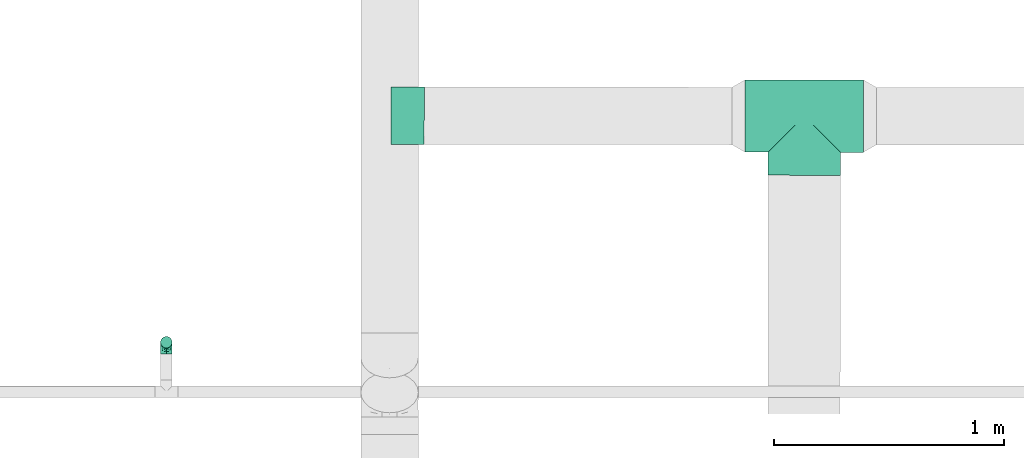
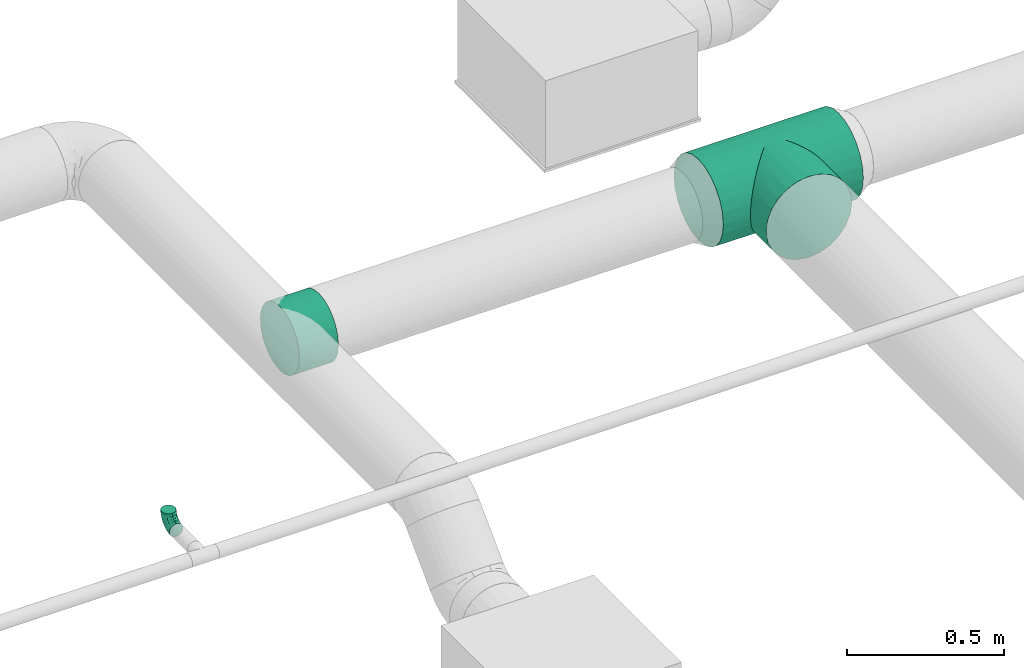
# One storey, part 34 of 63: 3 flow fittings.
"""IFC2X3 building model written with IfcOpenShell, lengths in millimetres."""

from ifc_helpers import new_model, entity, si_unit, converted_unit, derived_unit, direction, frame, origin_with_axes, place, context, subcontext, project, spatial, open_shell, surface_model, source, transform, mapped, type_object, element, save


model = new_model("IFC2X3")

# Units and contexts
model_context = context("Model", 3, precision=0.01, world=frame((0.0, 4.29681676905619e-09, 0.0)), true_north=direction((4.01073788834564e-13, 1.0)))
plan_context = context("Plan", 3, precision=0.01, world=frame((0.0, 4.29681676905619e-09, 0.0)), true_north=direction((4.01073788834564e-13, 1.0)))
body_context = subcontext(model_context, "Body", "Model", "MODEL_VIEW")
ifc_project = project(units=[converted_unit("PLANEANGLEUNIT", "DEGREE", entity("IfcPositiveLengthMeasure", 0.0174532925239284), si_unit("PLANEANGLEUNIT", "RADIAN"), dimensions=[0, 0, 0, 0, 0, 0, 0]), si_unit("AREAUNIT", "SQUARE_METRE"), si_unit("LENGTHUNIT", "METRE", prefix="MILLI"), si_unit("MASSUNIT", "GRAM", prefix="KILO"), si_unit("POWERUNIT", "WATT"), si_unit("PRESSUREUNIT", "PASCAL"), si_unit("FORCEUNIT", "NEWTON", prefix="KILO"), si_unit("ELECTRICVOLTAGEUNIT", "VOLT"), si_unit("ELECTRICCURRENTUNIT", "AMPERE"), si_unit("THERMODYNAMICTEMPERATUREUNIT", "DEGREE_CELSIUS"), si_unit("TIMEUNIT", "SECOND"), si_unit("VOLUMEUNIT", "CUBIC_METRE"), derived_unit("LINEARVELOCITYUNIT", [(si_unit("LENGTHUNIT", "METRE"), 1), (si_unit("TIMEUNIT", "SECOND"), -1)]), derived_unit("VOLUMETRICFLOWRATEUNIT", [(si_unit("VOLUMEUNIT", "CUBIC_METRE"), 1), (si_unit("TIMEUNIT", "SECOND"), -1)]), derived_unit("THERMALTRANSMITTANCEUNIT", [(si_unit("POWERUNIT", "WATT"), 1), (si_unit("THERMODYNAMICTEMPERATUREUNIT", "KELVIN"), -1), (si_unit("AREAUNIT", "SQUARE_METRE"), -1)]), derived_unit("SOUNDPRESSUREUNIT", [(si_unit("PRESSUREUNIT", "PASCAL"), 1)])], contexts=[model_context, plan_context])

# Site, building, storey
site_placement = place(None, frame((0.0, -4.29681676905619e-09, 0.0), z_axis=(0.0, 0.0, 1.0), x_axis=(1.0, 0.0, 0.0)))
site = spatial("IfcSite", under=ifc_project, at=site_placement, CompositionType="ELEMENT")
building_placement = place(site_placement, frame((0.0, 4.29681676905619e-09, 0.0), z_axis=(0.0, 0.0, 1.0), x_axis=(1.0, 0.0, 0.0)))
building = spatial("IfcBuilding", under=site, at=building_placement, Name="mc-building", CompositionType="ELEMENT")
storey_placement = place(building_placement, frame((0.0, 0.0, 210900.0), z_axis=(0.0, 0.0, 1.0), x_axis=(1.0, 0.0, 0.0)))
storey = spatial("IfcBuildingStorey", under=building, at=storey_placement, Name="Nivå F", CompositionType="ELEMENT", Elevation=210900.0)

# Flow fittings
duct_fitting_type_1 = type_object("IfcDuctFittingType", Name="magicirc_tee_centric_90_001", PredefinedType="JUNCTION")
shared_shape_1 = source(origin_with_axes(), body_context, "Body", "SurfaceModel", [
    surface_model("IfcShellBasedSurfaceModel", [(-257.5, 40.764, -152.13332), (-257.5, 0.0, -157.5), (-257.5, 152.13332, -40.764), (-257.5, 78.75, -136.39901), (-257.5, 136.39901, -78.75), (-257.5, 111.36932, -111.36932), (-257.5, -157.5, 0.0), (-257.5, -78.75, -136.39901), (-257.5, -111.36932, -111.36932), (-257.5, -40.764, -152.13332), (-257.5, -152.13332, -40.764), (-257.5, -136.39901, -78.75), (-257.5, -111.36932, 111.36932), (-257.5, 136.39901, 78.75), (-257.5, 152.13332, 40.764), (-257.5, 157.5, 0.0), (-257.5, 40.764, 152.13332), (-257.5, 78.75, 136.39901), (-257.5, 111.36932, 111.36932), (-257.5, 0.0, 157.5), (-257.5, -152.13332, 40.764), (-257.5, -136.39901, 78.75), (-257.5, -78.75, 136.39901), (-257.5, -40.764, 152.13332), (257.5, 152.13332, -40.764), (257.5, 0.0, -157.5), (257.5, 40.764, -152.13332), (257.5, 78.75, -136.39901), (257.5, 111.36932, -111.36932), (257.5, 136.39901, -78.75), (257.5, -40.764, -152.13332), (257.5, -111.36932, -111.36932), (257.5, -78.75, -136.39901), (257.5, -152.13332, -40.764), (257.5, -136.39901, -78.75), (257.5, -157.5, 0.0), (257.5, 136.39901, 78.75), (257.5, 157.5, 0.0), (257.5, 152.13332, 40.764), (257.5, -111.36932, 111.36932), (257.5, 78.75, 136.39901), (257.5, 40.764, 152.13332), (257.5, 111.36932, 111.36932), (257.5, 0.0, 157.5), (257.5, -136.39901, 78.75), (257.5, -152.13332, 40.764), (257.5, -40.764, 152.13332), (257.5, -78.75, 136.39901), (156.38291, -156.38291, 18.72524), (157.5, -157.5, 0.0), (257.5, -154.81666, 20.382), (153.10726, -153.10726, 36.93798), (140.95819, -140.95819, 70.26406), (147.87507, -147.87507, 54.21453), (257.5, -144.26616, 59.757), (257.5, -123.88416, 95.05966), (132.64215, -132.64215, 84.92533), (123.18918, -123.18918, 98.13601), (112.82257, -112.82257, 109.89684), (90.04708, -90.04708, 129.21987), (101.72534, -101.72534, 120.24227), (257.5, -95.05966, 123.88416), (-147.87507, -147.87507, 54.21453), (-257.5, -144.26616, 59.757), (-153.10726, -153.10726, 36.93798), (-157.5, -157.5, 0.0), (-156.38291, -156.38291, 18.72524), (-257.5, -154.81666, 20.382), (-140.95819, -140.95819, 70.26406), (-123.18918, -123.18918, 98.13601), (-112.82257, -112.82257, 109.89684), (-90.04708, -90.04708, 129.21987), (-257.5, -95.05966, 123.88416), (-101.72534, -101.72534, 120.24227), (-257.5, -123.88416, 95.05966), (-132.64215, -132.64215, 84.92533), (-77.91101, -77.91101, 136.87996), (77.91101, -77.91101, 136.87996), (65.41408, -65.41408, 143.27333), (52.63766, -52.63766, 148.44368), (26.51413, -26.51413, 155.25222), (39.65101, -39.65101, 152.42718), (0.0, 0.0, 157.5), (13.28058, -13.28058, 156.93908), (-26.51413, -26.51413, 155.25222), (-39.65101, -39.65101, 152.42718), (-65.41408, -65.41408, 143.27333), (-52.63766, -52.63766, 148.44368), (-13.28058, -13.28058, 156.93908), (0.0, 0.0, -157.5), (65.41408, -65.41408, -143.27333), (77.91101, -77.91101, -136.87996), (52.63766, -52.63766, -148.44368), (90.04708, -90.04708, -129.21987), (257.5, -95.05966, -123.88416), (101.72534, -101.72534, -120.24227), (13.28058, -13.28058, -156.93908), (26.51413, -26.51413, -155.25222), (140.95819, -140.95819, -70.26406), (257.5, -144.26616, -59.757), (147.87507, -147.87507, -54.21453), (39.65101, -39.65101, -152.42718), (-132.64215, -132.64215, -84.92533), (-257.5, -123.88416, -95.05966), (-123.18918, -123.18918, -98.13601), (-13.28058, -13.28058, -156.93908), (-26.51413, -26.51413, -155.25222), (-101.72534, -101.72534, -120.24227), (-257.5, -95.05966, -123.88416), (-39.65101, -39.65101, -152.42718), (-52.63766, -52.63766, -148.44368), (123.18918, -123.18918, -98.13601), (257.5, -123.88416, -95.05966), (-147.87507, -147.87507, -54.21453), (-257.5, -144.26616, -59.757), (-65.41408, -65.41408, -143.27333), (153.10726, -153.10726, -36.93798), (257.5, -154.81666, -20.382), (156.38291, -156.38291, -18.72524), (-77.91101, -77.91101, -136.87996), (-156.38291, -156.38291, -18.72524), (-257.5, -154.81666, -20.382), (132.64215, -132.64215, -84.92533), (112.82257, -112.82257, -109.89684), (-112.82257, -112.82257, -109.89684), (-90.04708, -90.04708, -129.21987), (-140.95819, -140.95819, -70.26406), (-153.10726, -153.10726, -36.93798), (152.13332, -257.5, -40.764), (0.0, -257.5, -157.5), (40.764, -257.5, -152.13332), (78.75, -257.5, -136.39901), (111.36932, -257.5, -111.36932), (136.39901, -257.5, -78.75), (-157.5, -257.5, 0.0), (-40.764, -257.5, -152.13332), (-111.36932, -257.5, -111.36932), (-78.75, -257.5, -136.39901), (-152.13332, -257.5, -40.764), (-136.39901, -257.5, -78.75), (157.5, -257.5, 0.0), (152.13332, -257.5, 40.764), (136.39901, -257.5, 78.75), (-40.764, -257.5, 152.13332), (78.75, -257.5, 136.39901), (40.764, -257.5, 152.13332), (111.36932, -257.5, 111.36932), (0.0, -257.5, 157.5), (-136.39901, -257.5, 78.75), (-152.13332, -257.5, 40.764), (-111.36932, -257.5, 111.36932), (-78.75, -257.5, 136.39901)], [open_shell([[[0, 1, 2]], [[3, 0, 2]], [[2, 4, 5]], [[3, 2, 5]], [[6, 2, 1]], [[7, 8, 9]], [[10, 9, 8]], [[11, 10, 8]], [[6, 9, 10]], [[6, 1, 9]], [[6, 12, 2]], [[13, 14, 15]], [[12, 13, 2]], [[13, 16, 17]], [[18, 13, 17]], [[16, 13, 19]], [[20, 21, 6]], [[6, 21, 12]], [[22, 23, 12]], [[23, 13, 12]], [[13, 23, 19]], [[13, 15, 2]], [[24, 25, 26]], [[24, 26, 27]], [[28, 29, 24]], [[28, 24, 27]], [[25, 24, 30]], [[30, 31, 32]], [[31, 30, 33]], [[31, 33, 34]], [[33, 30, 35]], [[30, 24, 35]], [[24, 36, 35]], [[37, 38, 36]], [[36, 39, 35]], [[40, 41, 36]], [[40, 36, 42]], [[43, 36, 41]], [[35, 44, 45]], [[39, 44, 35]], [[39, 46, 47]], [[39, 36, 46]], [[43, 46, 36]], [[36, 24, 37]], [[48, 49, 35]], [[50, 45, 51]], [[48, 50, 51]], [[52, 53, 54]], [[51, 45, 53]], [[54, 44, 52]], [[44, 55, 56]], [[57, 55, 39]], [[44, 56, 52]], [[58, 57, 39]], [[59, 60, 61]], [[58, 39, 60]], [[61, 47, 59]], [[20, 62, 63]], [[64, 62, 20]], [[6, 65, 66]], [[66, 67, 6]], [[67, 64, 20]], [[68, 21, 63]], [[69, 70, 12]], [[71, 22, 72]], [[70, 73, 12]], [[69, 74, 75]], [[75, 21, 68]], [[75, 74, 21]], [[73, 72, 12]], [[22, 71, 76]], [[77, 47, 78]], [[78, 47, 46]], [[60, 39, 61]], [[79, 78, 46]], [[53, 45, 54]], [[80, 81, 46]], [[79, 46, 81]], [[46, 43, 80]], [[64, 67, 66]], [[42, 18, 40]], [[36, 13, 42]], [[38, 14, 36]], [[82, 83, 43]], [[43, 83, 80]], [[82, 43, 41]], [[40, 17, 41]], [[38, 37, 15]], [[69, 12, 74]], [[48, 35, 50]], [[56, 55, 57]], [[23, 84, 19]], [[85, 84, 23]], [[86, 23, 22]], [[87, 23, 86]], [[23, 87, 85]], [[86, 22, 76]], [[84, 88, 19]], [[68, 63, 62]], [[82, 19, 88]], [[19, 82, 16]], [[16, 82, 41]], [[17, 16, 41]], [[40, 18, 17]], [[42, 13, 18]], [[14, 13, 36]], [[38, 15, 14]], [[71, 72, 73]], [[77, 59, 47]], [[28, 27, 3]], [[27, 26, 0]], [[2, 37, 24]], [[2, 24, 29]], [[29, 28, 5]], [[89, 26, 25]], [[90, 32, 91]], [[32, 90, 30]], [[30, 90, 92]], [[93, 94, 95]], [[96, 25, 97]], [[98, 99, 100]], [[92, 101, 30]], [[97, 30, 101]], [[102, 103, 104]], [[97, 25, 30]], [[25, 96, 89]], [[37, 2, 15]], [[26, 89, 0]], [[29, 4, 2]], [[29, 5, 4]], [[28, 3, 5]], [[0, 3, 27]], [[89, 1, 0]], [[105, 106, 1]], [[107, 8, 108]], [[109, 110, 9]], [[111, 31, 112]], [[113, 10, 114]], [[106, 109, 9]], [[1, 106, 9]], [[9, 115, 7]], [[116, 117, 118]], [[110, 115, 9]], [[7, 115, 119]], [[120, 6, 121]], [[105, 1, 89]], [[95, 94, 31]], [[122, 112, 34]], [[111, 112, 122]], [[93, 32, 94]], [[111, 123, 31]], [[95, 31, 123]], [[100, 99, 33]], [[117, 35, 118]], [[49, 118, 35]], [[98, 34, 99]], [[116, 33, 117]], [[100, 33, 116]], [[34, 98, 122]], [[107, 124, 8]], [[107, 108, 125]], [[125, 108, 7]], [[8, 104, 103]], [[124, 104, 8]], [[103, 102, 11]], [[7, 119, 125]], [[113, 114, 126]], [[120, 121, 127]], [[113, 127, 10]], [[126, 114, 11]], [[10, 127, 121]], [[65, 6, 120]], [[126, 11, 102]], [[91, 32, 93]], [[128, 129, 130]], [[128, 130, 131]], [[132, 133, 128]], [[132, 128, 131]], [[129, 128, 134]], [[135, 136, 137]], [[136, 135, 138]], [[136, 138, 139]], [[138, 135, 134]], [[135, 129, 134]], [[128, 140, 134]], [[140, 141, 142]], [[143, 140, 142]], [[144, 145, 142]], [[144, 142, 146]], [[147, 142, 145]], [[134, 148, 149]], [[150, 148, 134]], [[150, 143, 151]], [[150, 140, 143]], [[147, 143, 142]], [[150, 134, 140]], [[134, 149, 66]], [[66, 65, 134]], [[64, 66, 149]], [[149, 62, 64]], [[150, 69, 148]], [[151, 73, 150]], [[62, 148, 68]], [[148, 62, 149]], [[75, 68, 148]], [[151, 143, 86]], [[69, 75, 148]], [[70, 69, 150]], [[71, 73, 151]], [[76, 71, 151]], [[70, 150, 73]], [[87, 86, 143]], [[85, 87, 143]], [[147, 88, 84]], [[147, 82, 88]], [[85, 143, 84]], [[76, 151, 86]], [[147, 84, 143]], [[146, 60, 144]], [[145, 80, 147]], [[145, 144, 78]], [[57, 146, 142]], [[48, 141, 140]], [[48, 140, 49]], [[51, 53, 141]], [[48, 51, 141]], [[141, 53, 142]], [[52, 142, 53]], [[78, 79, 145]], [[77, 78, 144]], [[80, 83, 147]], [[81, 80, 145]], [[79, 81, 145]], [[56, 57, 142]], [[52, 56, 142]], [[60, 59, 144]], [[58, 60, 146]], [[57, 58, 146]], [[77, 144, 59]], [[147, 83, 82]], [[140, 128, 118]], [[118, 49, 140]], [[116, 118, 128]], [[128, 100, 116]], [[132, 111, 133]], [[131, 95, 132]], [[100, 133, 98]], [[133, 100, 128]], [[122, 98, 133]], [[131, 130, 90]], [[111, 122, 133]], [[123, 111, 132]], [[93, 95, 131]], [[91, 93, 131]], [[123, 132, 95]], [[92, 90, 130]], [[101, 92, 130]], [[129, 96, 97]], [[129, 89, 96]], [[101, 130, 97]], [[91, 131, 90]], [[129, 97, 130]], [[136, 107, 137]], [[135, 106, 129]], [[135, 137, 115]], [[104, 136, 139]], [[120, 138, 134]], [[120, 134, 65]], [[127, 113, 138]], [[120, 127, 138]], [[138, 113, 139]], [[126, 139, 113]], [[115, 110, 135]], [[119, 115, 137]], [[106, 105, 129]], [[109, 106, 135]], [[110, 109, 135]], [[102, 104, 139]], [[126, 102, 139]], [[107, 125, 137]], [[124, 107, 136]], [[104, 124, 136]], [[119, 137, 125]], [[129, 105, 89]]])]),
])
flow_fitting_1_placement = place(storey_placement, frame((525104.70499, 459789.05372, 4200.0), z_axis=(0.0, 0.0, 1.0), x_axis=(0.999999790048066, -0.000647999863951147, 0.0)))
element("IfcFlowFitting", 1, at=flow_fitting_1_placement, inside=storey, type_object=duct_fitting_type_1, Name="magicirc_tee_centric_90_001", context=body_context, shape_type="MappedRepresentation", body=[
    mapped(shared_shape_1, transform((0.0, 0.0, 0.0), scale=1.0)),
])
duct_fitting_type_2 = type_object("IfcDuctFittingType", Name="magicirc_tapoutlet_001", PredefinedType="CONNECTOR")
shared_shape_2 = source(origin_with_axes(), body_context, "Body", "SurfaceModel", [
    surface_model("IfcShellBasedSurfaceModel", [(-118.904, 88.38835, -88.38835), (-118.904, 120.74073, 32.35238), (-118.904, 108.25318, -62.5), (-118.904, -88.38835, -88.38835), (-118.904, -125.0, 0.0), (-118.904, -62.5, -108.25318), (-118.904, -120.74073, -32.35238), (-118.904, -108.25318, -62.5), (0.0, 125.0, 0.0), (0.0, 120.74073, -32.35238), (-118.904, 125.0, 0.0), (0.0, -120.74073, -32.35238), (0.0, -125.0, 0.0), (-118.904, -32.35238, -120.74073), (-118.904, 0.0, -125.0), (-118.904, 62.5, -108.25318), (-118.904, 32.35238, -120.74073), (-118.904, 120.74073, -32.35238), (-118.904, -120.74073, 32.35238), (-118.904, -108.25318, 62.5), (-118.904, -62.5, 108.25318), (-118.904, -32.35238, 120.74073), (-118.904, -88.38835, 88.38835), (-118.904, 62.5, 108.25318), (-118.904, 108.25318, 62.5), (-118.904, 88.38835, 88.38835), (-118.904, 32.35238, 120.74073), (-118.904, 0.0, 125.0), (0.0, -32.35238, 120.74073), (0.0, 0.0, 125.0), (0.0, -62.5, 108.25318), (0.0, -88.38835, 88.38835), (0.0, -120.74073, 32.35238), (0.0, -108.25318, 62.5), (0.0, -108.25318, -62.5), (0.0, -88.38835, -88.38835), (0.0, -32.35238, -120.74073), (0.0, -62.5, -108.25318), (0.0, 0.0, -125.0), (0.0, 32.35238, -120.74073), (0.0, 62.5, -108.25318), (0.0, 88.38835, -88.38835), (0.0, 108.25318, -62.5), (0.0, 120.74073, 32.35238), (0.0, 108.25318, 62.5), (0.0, 88.38835, 88.38835), (0.0, 32.35238, 120.74073), (0.0, 62.5, 108.25318), (25.0, -88.38835, -88.38835), (25.0, -120.74073, 32.35238), (25.0, -108.25318, -62.5), (25.0, 32.35238, -120.74073), (25.0, 0.0, -125.0), (25.0, 62.5, -108.25318), (25.0, -32.35238, -120.74073), (25.0, -62.5, -108.25318), (25.0, -125.0, 0.0), (25.0, -120.74073, -32.35238), (25.0, 88.38835, -88.38835), (25.0, 108.25318, -62.5), (25.0, 125.0, 0.0), (25.0, 120.74073, 32.35238), (25.0, 120.74073, -32.35238), (25.0, -108.25318, 62.5), (25.0, -62.5, 108.25318), (25.0, -32.35238, 120.74073), (25.0, -88.38835, 88.38835), (25.0, 0.0, 125.0), (25.0, 108.25318, 62.5), (25.0, 88.38835, 88.38835), (25.0, 32.35238, 120.74073), (25.0, 62.5, 108.25318)], [open_shell([[[0, 1, 2]], [[3, 4, 5]], [[6, 4, 7]], [[3, 7, 4]], [[8, 9, 10]], [[4, 11, 12]], [[13, 4, 14]], [[5, 4, 13]], [[0, 14, 1]], [[14, 15, 16]], [[14, 0, 15]], [[2, 1, 17]], [[2, 0, 1]], [[1, 10, 17]], [[4, 7, 6]], [[18, 19, 14]], [[14, 19, 20]], [[21, 14, 20]], [[20, 19, 22]], [[14, 21, 23]], [[14, 24, 1]], [[25, 24, 14]], [[25, 14, 23]], [[21, 26, 23]], [[21, 27, 26]], [[4, 18, 14]], [[28, 29, 21]], [[30, 28, 20]], [[21, 29, 27]], [[20, 28, 21]], [[20, 22, 30]], [[22, 31, 30]], [[32, 33, 18]], [[12, 32, 4]], [[22, 19, 31]], [[19, 33, 31]], [[18, 33, 19]], [[18, 4, 32]], [[7, 34, 11]], [[6, 11, 4]], [[34, 7, 3]], [[6, 7, 11]], [[3, 35, 34]], [[36, 37, 13]], [[38, 36, 14]], [[3, 5, 35]], [[5, 37, 35]], [[13, 37, 5]], [[13, 14, 36]], [[39, 38, 16]], [[40, 39, 15]], [[16, 38, 14]], [[15, 39, 16]], [[15, 0, 40]], [[0, 41, 40]], [[9, 42, 17]], [[0, 2, 41]], [[2, 42, 41]], [[17, 42, 2]], [[17, 10, 9]], [[43, 8, 1]], [[44, 43, 24]], [[1, 8, 10]], [[24, 43, 1]], [[24, 25, 44]], [[25, 45, 44]], [[46, 47, 26]], [[29, 46, 27]], [[25, 23, 45]], [[23, 47, 45]], [[26, 47, 23]], [[26, 27, 46]], [[7, 4, 3]], [[15, 16, 14]], [[19, 14, 18]], [[19, 22, 14]], [[14, 22, 20]], [[14, 23, 25]], [[27, 26, 21]], [[14, 4, 18]], [[48, 49, 50]], [[51, 52, 38]], [[53, 51, 39]], [[53, 39, 40]], [[38, 52, 54]], [[36, 54, 55]], [[37, 36, 55]], [[56, 57, 49]], [[58, 59, 60]], [[58, 60, 53]], [[52, 51, 54]], [[54, 49, 55]], [[55, 49, 48]], [[54, 60, 61]], [[54, 51, 53]], [[62, 60, 59]], [[53, 60, 54]], [[57, 50, 49]], [[63, 49, 54]], [[64, 63, 54]], [[64, 54, 65]], [[66, 63, 64]], [[67, 65, 54]], [[61, 68, 54]], [[68, 69, 54]], [[70, 67, 71]], [[69, 71, 67]], [[54, 69, 67]], [[65, 67, 29]], [[64, 65, 28]], [[28, 65, 29]], [[31, 66, 30]], [[64, 28, 30]], [[64, 30, 66]], [[49, 63, 33]], [[56, 49, 32]], [[33, 63, 31]], [[49, 33, 32]], [[56, 32, 12]], [[66, 31, 63]], [[57, 56, 12]], [[50, 57, 11]], [[11, 57, 12]], [[35, 48, 34]], [[50, 11, 34]], [[50, 34, 48]], [[37, 55, 35]], [[54, 36, 38]], [[48, 35, 55]], [[39, 51, 38]], [[41, 58, 40]], [[53, 40, 58]], [[62, 59, 42]], [[60, 62, 9]], [[42, 59, 41]], [[62, 42, 9]], [[60, 9, 8]], [[58, 41, 59]], [[61, 60, 8]], [[68, 61, 43]], [[43, 61, 8]], [[45, 69, 44]], [[68, 43, 44]], [[68, 44, 69]], [[70, 71, 47]], [[67, 70, 46]], [[47, 71, 45]], [[70, 47, 46]], [[67, 46, 29]], [[69, 45, 71]], [[66, 63, 54]], [[54, 65, 64]], [[64, 66, 54]], [[54, 69, 71]], [[67, 54, 71]]])]),
])
flow_fitting_2_placement = place(storey_placement, frame((523426.96963, 459790.14046, 4200.0), z_axis=(0.0, 0.0, -1.0), x_axis=(0.999999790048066, -0.000647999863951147, 0.0)))
element("IfcFlowFitting", 2, at=flow_fitting_2_placement, inside=storey, type_object=duct_fitting_type_2, Name="magicirc_tapoutlet_001", context=body_context, shape_type="MappedRepresentation", body=[
    mapped(shared_shape_2, transform((0.0, 0.0, 0.0), scale=1.0)),
])
duct_fitting_type_3 = type_object("IfcDuctFittingType", Name="magicirc_elbow_full_radius_001", PredefinedType="BEND")
shared_shape_3 = source(origin_with_axes(), body_context, "Body", "SurfaceModel", [
    surface_model("IfcShellBasedSurfaceModel", [(-50.0, -6.47048, 24.14815), (-50.0, 0.0, 25.0), (-50.0, 6.47048, 24.14815), (-50.0, 25.0, 0.0), (-50.0, 24.14815, -6.47048), (-50.0, 24.14815, 6.47048), (-50.0, 6.47048, -24.14815), (-50.0, 0.0, -25.0), (-50.0, 12.5, -21.65064), (-50.0, 21.65064, -12.5), (-50.0, 17.67767, -17.67767), (-50.0, -17.67767, -17.67767), (-50.0, -12.5, -21.65064), (-50.0, -6.47048, -24.14815), (-50.0, -21.65064, -12.5), (-50.0, -24.14815, -6.47048), (-50.0, -24.14815, 6.47048), (-50.0, -25.0, 0.0), (-50.0, 21.65064, 12.5), (-50.0, 12.5, 21.65064), (-50.0, 17.67767, 17.67767), (-50.0, -12.5, 21.65064), (-50.0, -21.65064, 12.5), (-50.0, -17.67767, 17.67767), (-24.14815, 50.0, -6.47048), (0.0, 50.0, -25.0), (-6.47048, 50.0, -24.14815), (-12.5, 50.0, -21.65064), (-21.65064, 50.0, -12.5), (-17.67767, 50.0, -17.67767), (17.67767, 50.0, -17.67767), (6.47048, 50.0, -24.14815), (12.5, 50.0, -21.65064), (24.14815, 50.0, -6.47048), (21.65064, 50.0, -12.5), (25.0, 50.0, 0.0), (-24.14815, 50.0, 6.47048), (24.14815, 50.0, 6.47048), (-6.47048, 50.0, 24.14815), (-21.65064, 50.0, 12.5), (-17.67767, 50.0, 17.67767), (-12.5, 50.0, 21.65064), (12.5, 50.0, 21.65064), (17.67767, 50.0, 17.67767), (21.65064, 50.0, 12.5), (6.47048, 50.0, 24.14815), (0.0, 50.0, 25.0), (-25.0, 50.0, 0.0), (-36.67735, -19.42227, 14.03433), (-32.82968, -14.42335, 18.62892), (-35.64937, -22.14548, 0.0), (-22.09962, -15.92094, 12.6179), (-33.22625, -21.82028, 7.797), (21.82028, 33.22625, 7.797), (17.64067, 19.58414, 6.40882), (19.29096, 21.29874, 0.0), (-24.43766, 39.90136, 10.86587), (-20.88421, 38.92216, 16.42417), (-36.74567, -9.45359, 22.49231), (-38.192, -3.31182, 24.57244), (-35.00811, 3.83216, 24.95739), (-9.13287, -11.16199, 0.0), (-19.58414, -17.64067, 6.40882), (-21.29874, -19.29096, 0.0), (-19.31524, -6.06759, 20.7695), (-24.88984, -0.22435, 24.23133), (-2.15147, -4.22615, 11.26442), (-0.41902, 0.51586, 14.93357), (-8.49829, -5.98681, 15.40266), (-39.08085, 20.84056, 16.4067), (-8.68866, 24.58498, 24.95514), (-18.51786, 18.51786, 24.39255), (-14.88627, 10.92479, 24.87122), (-43.25329, 15.13957, 20.3706), (-9.33205, 43.12334, 23.41697), (-3.42635, 37.39647, 24.9386), (-39.91378, 24.43361, 10.86421), (-39.52416, 26.62869, 5.49664), (-31.04081, 31.04081, 9.34521), (-38.53768, 9.80489, 23.61608), (-6.5257, 16.74435, 24.54744), (-12.42199, 4.5863, 23.34496), (-2.55398, 13.50681, 22.9747), (-4.46571, 4.46571, 20.43962), (14.42335, 32.82968, 18.62892), (15.92094, 22.09962, 12.6179), (19.42227, 36.67735, 14.03433), (-26.57791, 16.96315, 23.12353), (-27.47187, 10.70867, 24.55261), (3.31182, 38.192, 24.57244), (9.45359, 36.74567, 22.49231), (6.06759, 19.31524, 20.7695), (22.14548, 35.64937, 0.0), (-24.53158, 6.12607, 24.98933), (-23.14362, 26.40038, 20.54252), (-34.42614, 16.97043, 21.05258), (-26.31567, 40.33071, 5.36329), (-31.33209, 32.79034, 4.39983), (11.41104, 20.24921, 17.09898), (-28.34936, 37.5, 0.0), (-10.81204, 33.87561, 23.80901), (-14.26605, 25.87925, 24.03265), (-18.12489, 32.31264, 21.01179), (-19.91717, 24.20374, 22.74716), (-15.27322, 41.92094, 20.47431), (-20.24921, -11.41104, 17.09898), (-25.92754, 33.13968, 14.14974), (-26.35258, 27.91972, 17.70863), (-32.10875, 26.86285, 13.94058), (0.22435, 24.88984, 24.23133), (5.69292, 8.68334, 15.83541), (-11.86567, -11.15996, 11.73483), (1.48439, -3.24717, 6.76648), (7.59176, 4.45273, 8.73079), (7.75387, 2.59512, 3.74652), (12.87658, 10.42821, 5.90505), (12.55206, 12.96891, 10.49254), (-37.5, 28.34936, 0.0), (-6.73798, -9.94178, 7.2586), (3.03301, -3.03301, 0.0), (11.16199, 9.13287, 0.0), (-20.24921, -11.41104, -17.09898), (-32.82968, -14.42335, -18.62892), (-19.31524, -6.06759, -20.7695), (-22.09962, -15.92095, -12.6179), (-38.92216, 20.88421, -16.42417), (-41.92094, 15.27322, -20.47431), (-40.33071, 26.31567, -5.36329), (-33.22625, -21.82028, -7.797), (-31.04081, 31.0408, -9.34521), (-39.90136, 24.43766, -10.86587), (-19.58414, -17.64067, -6.40882), (-24.20374, 19.91717, -22.74716), (-25.87925, 14.26604, -24.03266), (-32.31264, 18.12489, -21.01179), (-15.13957, 43.25329, -20.3706), (-20.84057, 39.08085, -16.4067), (9.45359, 36.74567, -22.49231), (6.06759, 19.31524, -20.7695), (0.22435, 24.88984, -24.23133), (-43.12334, 9.33205, -23.41697), (-36.67735, -19.42227, -14.03433), (-36.74567, -9.45359, -22.49231), (-16.96315, 26.5779, -23.12354), (-9.80489, 38.53768, -23.61608), (-10.70867, 27.47187, -24.55261), (-38.192, -3.31182, -24.57244), (-24.58498, 8.68866, -24.95514), (-18.51786, 18.51786, -24.39255), (-10.92479, 14.88627, -24.87122), (-37.39647, 3.42635, -24.9386), (-26.62869, 39.52416, -5.49664), (-24.43361, 39.91378, -10.86421), (-33.87561, 10.81204, -23.80901), (-32.79034, 31.33209, -4.39983), (-6.12607, 24.53158, -24.98933), (-26.40038, 23.14362, -20.54252), (-16.97043, 34.42613, -21.05258), (3.31182, 38.192, -24.57244), (-3.83216, 35.00811, -24.95739), (19.42227, 36.67735, -14.03433), (14.42335, 32.82968, -18.62892), (7.75387, 2.59513, -3.74652), (12.87658, 10.42822, -5.90505), (-16.74435, 6.5257, -24.54744), (-4.5863, 12.42199, -23.34496), (-13.50681, 2.55398, -22.9747), (1.48439, -3.24717, -6.76647), (-6.73799, -9.94178, -7.2586), (-2.15147, -4.22615, -11.26442), (15.92094, 22.09962, -12.6179), (21.82028, 33.22625, -7.797), (17.64067, 19.58414, -6.40882), (-33.13968, 25.92753, -14.14974), (11.41104, 20.24921, -17.09898), (12.55206, 12.96891, -10.49254), (5.69292, 8.68334, -15.83541), (-27.91972, 26.35258, -17.70863), (-26.86285, 32.10875, -13.94058), (-24.88984, -0.22435, -24.23133), (-4.46571, 4.46571, -20.43962), (-8.49829, -5.98681, -15.40266), (-11.86568, -11.15996, -11.73483), (-0.41902, 0.51586, -14.93357), (7.59175, 4.45273, -8.73079)], [open_shell([[[0, 1, 2]], [[3, 4, 5]], [[6, 7, 4]], [[8, 6, 4]], [[8, 4, 9]], [[10, 8, 9]], [[11, 4, 7]], [[12, 11, 13]], [[11, 7, 13]], [[14, 15, 11]], [[15, 16, 11]], [[17, 16, 15]], [[4, 11, 5]], [[5, 11, 16]], [[18, 5, 2]], [[2, 19, 20]], [[18, 2, 20]], [[2, 5, 21]], [[22, 23, 16]], [[21, 16, 23]], [[16, 21, 5]], [[21, 0, 2]], [[24, 25, 26]], [[24, 26, 27]], [[28, 24, 27]], [[28, 27, 29]], [[25, 24, 30]], [[31, 30, 32]], [[31, 25, 30]], [[30, 33, 34]], [[24, 33, 30]], [[24, 35, 33]], [[24, 36, 35]], [[37, 35, 36]], [[38, 36, 39]], [[40, 41, 38]], [[40, 38, 39]], [[42, 36, 38]], [[37, 43, 44]], [[43, 37, 42]], [[36, 42, 37]], [[38, 45, 42]], [[38, 46, 45]], [[36, 24, 47]], [[23, 48, 49]], [[16, 17, 50]], [[51, 48, 52]], [[53, 54, 55]], [[48, 23, 22]], [[16, 52, 22]], [[39, 56, 57]], [[49, 21, 23]], [[49, 58, 21]], [[1, 59, 60]], [[61, 62, 63]], [[58, 64, 65]], [[66, 67, 68]], [[18, 20, 69]], [[70, 71, 72]], [[19, 73, 20]], [[0, 59, 1]], [[38, 74, 75]], [[1, 60, 2]], [[18, 69, 76]], [[20, 73, 69]], [[3, 5, 77]], [[5, 18, 76]], [[77, 76, 78]], [[2, 79, 19]], [[80, 81, 82]], [[68, 83, 64]], [[84, 43, 42]], [[85, 86, 84]], [[87, 79, 88]], [[21, 58, 0]], [[46, 89, 45]], [[53, 37, 44]], [[46, 38, 75]], [[84, 90, 91]], [[44, 86, 53]], [[92, 37, 53]], [[86, 44, 43]], [[90, 42, 45]], [[53, 55, 92]], [[88, 93, 72]], [[54, 53, 85]], [[87, 94, 95]], [[78, 96, 97]], [[98, 84, 91]], [[99, 96, 47]], [[79, 2, 60]], [[96, 78, 56]], [[62, 52, 63]], [[57, 40, 39]], [[100, 70, 75]], [[101, 102, 103]], [[16, 50, 52]], [[104, 41, 40]], [[74, 38, 41]], [[57, 102, 104]], [[105, 64, 49]], [[90, 84, 42]], [[39, 36, 56]], [[56, 106, 57]], [[102, 57, 107]], [[95, 107, 69]], [[76, 108, 78]], [[100, 101, 70]], [[89, 75, 109]], [[64, 58, 49]], [[63, 52, 50]], [[59, 58, 65]], [[105, 49, 51]], [[64, 83, 81]], [[89, 90, 45]], [[35, 37, 92]], [[109, 82, 91]], [[109, 91, 90]], [[91, 83, 110]], [[111, 68, 105]], [[66, 68, 111]], [[62, 51, 52]], [[66, 112, 113]], [[114, 115, 113]], [[98, 85, 84]], [[52, 48, 22]], [[49, 48, 51]], [[84, 86, 43]], [[53, 86, 85]], [[88, 79, 60]], [[73, 79, 95]], [[96, 56, 36]], [[78, 108, 106]], [[87, 103, 94]], [[100, 74, 104]], [[108, 69, 107]], [[78, 97, 77]], [[88, 72, 71]], [[109, 75, 70]], [[81, 72, 65]], [[70, 72, 80]], [[75, 89, 46]], [[90, 89, 109]], [[58, 59, 0]], [[60, 59, 65]], [[67, 83, 68]], [[110, 113, 116]], [[88, 60, 93]], [[87, 88, 71]], [[103, 87, 71]], [[79, 87, 95]], [[101, 103, 71]], [[94, 103, 102]], [[47, 96, 36]], [[96, 99, 97]], [[99, 117, 97]], [[97, 117, 77]], [[3, 77, 117]], [[5, 76, 77]], [[60, 65, 93]], [[65, 72, 93]], [[70, 101, 71]], [[102, 101, 100]], [[69, 108, 76]], [[106, 108, 107]], [[57, 106, 107]], [[78, 106, 56]], [[57, 104, 40]], [[100, 104, 102]], [[102, 107, 94]], [[95, 94, 107]], [[64, 81, 65]], [[82, 81, 83]], [[91, 82, 83]], [[80, 82, 109]], [[70, 80, 109]], [[81, 80, 72]], [[79, 73, 19]], [[69, 73, 95]], [[104, 74, 41]], [[75, 74, 100]], [[62, 61, 118]], [[111, 62, 118]], [[113, 115, 116]], [[119, 118, 61]], [[111, 105, 51]], [[113, 112, 114]], [[120, 55, 54]], [[68, 64, 105]], [[91, 110, 98]], [[116, 98, 110]], [[62, 111, 51]], [[66, 111, 118]], [[112, 66, 118]], [[67, 113, 110]], [[118, 119, 112]], [[114, 112, 119]], [[119, 120, 114]], [[115, 120, 54]], [[120, 115, 114]], [[116, 54, 85]], [[54, 116, 115]], [[116, 85, 98]], [[113, 67, 66]], [[83, 67, 110]], [[121, 122, 123]], [[122, 121, 124]], [[9, 125, 10]], [[10, 126, 8]], [[117, 127, 3]], [[50, 15, 128]], [[127, 129, 130]], [[128, 131, 63]], [[132, 133, 134]], [[29, 135, 136]], [[137, 138, 139]], [[8, 140, 6]], [[128, 14, 141]], [[142, 12, 13]], [[128, 63, 50]], [[9, 4, 130]], [[14, 11, 141]], [[143, 144, 145]], [[146, 13, 7]], [[147, 148, 149]], [[14, 128, 15]], [[124, 141, 122]], [[150, 7, 6]], [[151, 152, 129]], [[125, 134, 126]], [[153, 147, 150]], [[127, 154, 129]], [[145, 155, 149]], [[47, 24, 151]], [[143, 156, 157]], [[152, 24, 28]], [[25, 158, 159]], [[122, 11, 12]], [[29, 27, 135]], [[144, 27, 26]], [[30, 160, 161]], [[25, 31, 158]], [[120, 162, 163]], [[130, 125, 9]], [[29, 136, 28]], [[6, 140, 150]], [[32, 161, 137]], [[142, 122, 12]], [[25, 159, 26]], [[164, 165, 166]], [[167, 168, 169]], [[34, 160, 30]], [[161, 32, 30]], [[170, 160, 171]], [[131, 128, 124]], [[35, 92, 33]], [[33, 92, 171]], [[172, 171, 55]], [[33, 171, 34]], [[144, 26, 159]], [[130, 173, 125]], [[174, 175, 176]], [[136, 152, 28]], [[32, 137, 31]], [[122, 142, 123]], [[134, 125, 177]], [[157, 177, 136]], [[152, 178, 129]], [[153, 133, 147]], [[146, 150, 179]], [[146, 142, 13]], [[17, 15, 50]], [[179, 166, 123]], [[179, 123, 142]], [[123, 180, 181]], [[138, 137, 161]], [[55, 171, 92]], [[158, 137, 139]], [[174, 161, 170]], [[138, 180, 165]], [[180, 138, 176]], [[124, 121, 182]], [[176, 183, 180]], [[61, 131, 168]], [[169, 168, 182]], [[172, 170, 171]], [[122, 141, 11]], [[128, 141, 124]], [[171, 160, 34]], [[161, 160, 170]], [[145, 144, 159]], [[135, 144, 157]], [[127, 130, 4]], [[129, 178, 173]], [[143, 132, 156]], [[153, 140, 126]], [[178, 136, 177]], [[129, 154, 151]], [[145, 149, 148]], [[179, 150, 147]], [[165, 149, 139]], [[147, 149, 164]], [[150, 146, 7]], [[142, 146, 179]], [[137, 158, 31]], [[159, 158, 139]], [[174, 138, 161]], [[184, 169, 183]], [[145, 159, 155]], [[143, 145, 148]], [[132, 143, 148]], [[144, 143, 157]], [[133, 132, 148]], [[156, 132, 134]], [[3, 127, 4]], [[127, 117, 154]], [[117, 99, 154]], [[154, 99, 151]], [[47, 151, 99]], [[24, 152, 151]], [[159, 139, 155]], [[139, 149, 155]], [[147, 133, 148]], [[134, 133, 153]], [[136, 178, 152]], [[173, 178, 177]], [[125, 173, 177]], [[129, 173, 130]], [[125, 126, 10]], [[153, 126, 134]], [[134, 177, 156]], [[157, 156, 177]], [[138, 165, 139]], [[166, 165, 180]], [[123, 166, 180]], [[164, 166, 179]], [[147, 164, 179]], [[165, 164, 149]], [[144, 135, 27]], [[136, 135, 157]], [[126, 140, 8]], [[150, 140, 153]], [[182, 131, 124]], [[168, 119, 61]], [[119, 167, 162]], [[63, 131, 61]], [[172, 163, 175]], [[172, 55, 120]], [[123, 181, 121]], [[182, 121, 181]], [[175, 174, 170]], [[176, 138, 174]], [[169, 182, 181]], [[131, 182, 168]], [[183, 169, 181]], [[167, 169, 184]], [[162, 167, 184]], [[119, 168, 167]], [[163, 162, 184]], [[120, 119, 162]], [[175, 163, 184]], [[120, 163, 172]], [[176, 175, 184]], [[172, 175, 170]], [[180, 183, 181]], [[184, 183, 176]]])]),
])
flow_fitting_3_placement = place(storey_placement, frame((522330.0, 458805.0, 4425.0), z_axis=(1.0, 0.0, 0.0), x_axis=(0.0, 1.0, 0.0)))
element("IfcFlowFitting", 3, at=flow_fitting_3_placement, inside=storey, type_object=duct_fitting_type_3, Name="magicirc_elbow_full_radius_001", context=body_context, shape_type="MappedRepresentation", body=[
    mapped(shared_shape_3, transform((0.0, 0.0, 0.0), scale=1.0)),
])

save(model, "model.ifc")
